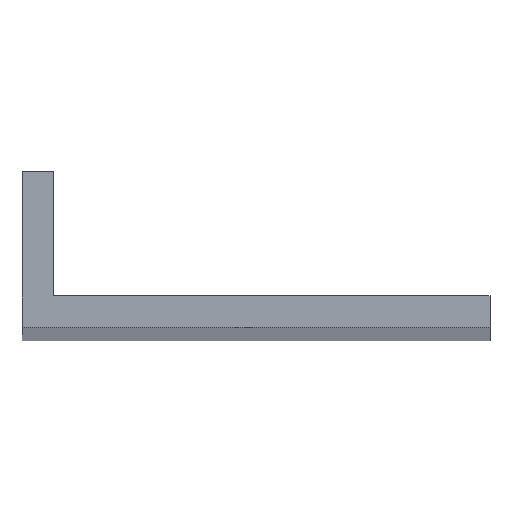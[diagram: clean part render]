
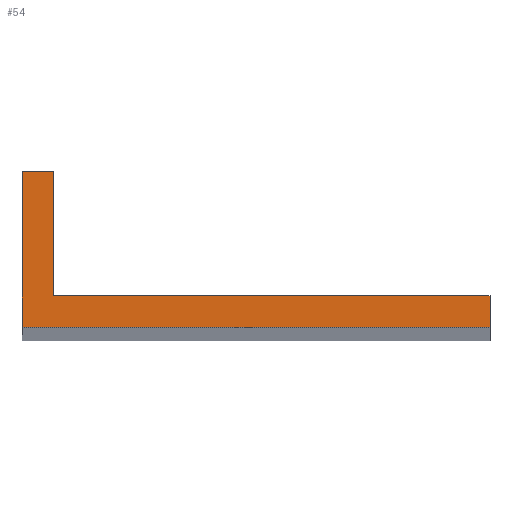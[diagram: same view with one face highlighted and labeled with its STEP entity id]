
A CAD part, top view. The second image highlights one B-rep face of the part: STEP entity #54.
In plain terms, the highlighted planar face has unit normal (0, 0, 1).
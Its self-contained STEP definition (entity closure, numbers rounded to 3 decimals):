
#12 = DIRECTION ( 'NONE',  ( 0., 1., 0. ) ) ;
#13 = ORIENTED_EDGE ( 'NONE', *, *, #246, .T. ) ;
#17 = CARTESIAN_POINT ( 'NONE',  ( 30., 0., 250. ) ) ;
#25 = LINE ( 'NONE', #102, #143 ) ;
#28 = ORIENTED_EDGE ( 'NONE', *, *, #76, .T. ) ;
#32 = CARTESIAN_POINT ( 'NONE',  ( 0., 0., 250. ) ) ;
#35 = CARTESIAN_POINT ( 'NONE',  ( 30., 2., 250. ) ) ;
#44 = LINE ( 'NONE', #126, #199 ) ;
#46 = VECTOR ( 'NONE', #253, 1000. ) ;
#54 = ADVANCED_FACE ( 'NONE', ( #153 ), #136, .F. ) ;
#55 = AXIS2_PLACEMENT_3D ( 'NONE', #32, #174, #132 ) ;
#58 = LINE ( 'NONE', #217, #108 ) ;
#62 = CARTESIAN_POINT ( 'NONE',  ( 0., 10., 250. ) ) ;
#73 = ORIENTED_EDGE ( 'NONE', *, *, #118, .T. ) ;
#74 = CARTESIAN_POINT ( 'NONE',  ( 30., 0., 250. ) ) ;
#75 = EDGE_CURVE ( 'NONE', #121, #168, #212, .T. ) ;
#76 = EDGE_CURVE ( 'NONE', #210, #225, #58, .T. ) ;
#84 = VERTEX_POINT ( 'NONE', #135 ) ;
#90 = EDGE_LOOP ( 'NONE', ( #243, #73, #100, #13, #28, #207 ) ) ;
#99 = CARTESIAN_POINT ( 'NONE',  ( 30., 2., 250. ) ) ;
#100 = ORIENTED_EDGE ( 'NONE', *, *, #105, .T. ) ;
#102 = CARTESIAN_POINT ( 'NONE',  ( 0., 0., 250. ) ) ;
#105 = EDGE_CURVE ( 'NONE', #247, #84, #151, .T. ) ;
#108 = VECTOR ( 'NONE', #250, 1000. ) ;
#114 = CARTESIAN_POINT ( 'NONE',  ( 0., 0., 250. ) ) ;
#116 = CARTESIAN_POINT ( 'NONE',  ( 2., 2., 250. ) ) ;
#118 = EDGE_CURVE ( 'NONE', #168, #247, #251, .T. ) ;
#121 = VERTEX_POINT ( 'NONE', #114 ) ;
#126 = CARTESIAN_POINT ( 'NONE',  ( 2., 10., 250. ) ) ;
#132 = DIRECTION ( 'NONE',  ( -1., 0., 0. ) ) ;
#135 = CARTESIAN_POINT ( 'NONE',  ( 2., 2., 250. ) ) ;
#136 = PLANE ( 'NONE',  #55 ) ;
#138 = DIRECTION ( 'NONE',  ( 0., -1., 0. ) ) ;
#143 = VECTOR ( 'NONE', #138, 1000. ) ;
#151 = LINE ( 'NONE', #116, #213 ) ;
#153 = FACE_OUTER_BOUND ( 'NONE', #90, .T. ) ;
#159 = CARTESIAN_POINT ( 'NONE',  ( 2., 10., 250. ) ) ;
#168 = VERTEX_POINT ( 'NONE', #17 ) ;
#174 = DIRECTION ( 'NONE',  ( 0., 0., -1. ) ) ;
#197 = DIRECTION ( 'NONE',  ( -1., 0., 0. ) ) ;
#199 = VECTOR ( 'NONE', #12, 1000. ) ;
#207 = ORIENTED_EDGE ( 'NONE', *, *, #227, .T. ) ;
#210 = VERTEX_POINT ( 'NONE', #159 ) ;
#212 = LINE ( 'NONE', #74, #230 ) ;
#213 = VECTOR ( 'NONE', #197, 1000. ) ;
#217 = CARTESIAN_POINT ( 'NONE',  ( 0., 10., 250. ) ) ;
#225 = VERTEX_POINT ( 'NONE', #62 ) ;
#227 = EDGE_CURVE ( 'NONE', #225, #121, #25, .T. ) ;
#230 = VECTOR ( 'NONE', #238, 1000. ) ;
#238 = DIRECTION ( 'NONE',  ( 1., 0., 0. ) ) ;
#243 = ORIENTED_EDGE ( 'NONE', *, *, #75, .T. ) ;
#246 = EDGE_CURVE ( 'NONE', #84, #210, #44, .T. ) ;
#247 = VERTEX_POINT ( 'NONE', #99 ) ;
#250 = DIRECTION ( 'NONE',  ( -1., 0., 0. ) ) ;
#251 = LINE ( 'NONE', #35, #46 ) ;
#253 = DIRECTION ( 'NONE',  ( 0., 1., 0. ) ) ;
